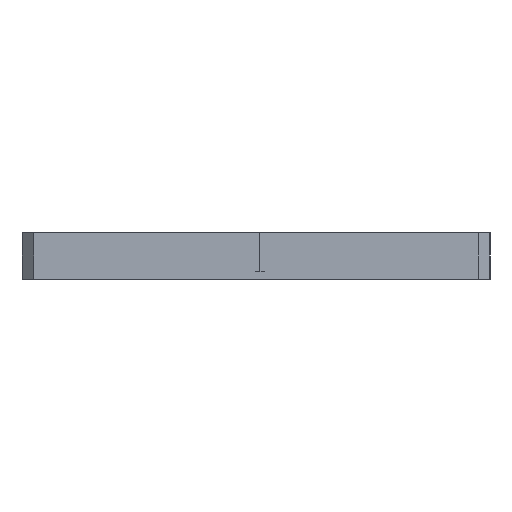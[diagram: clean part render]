
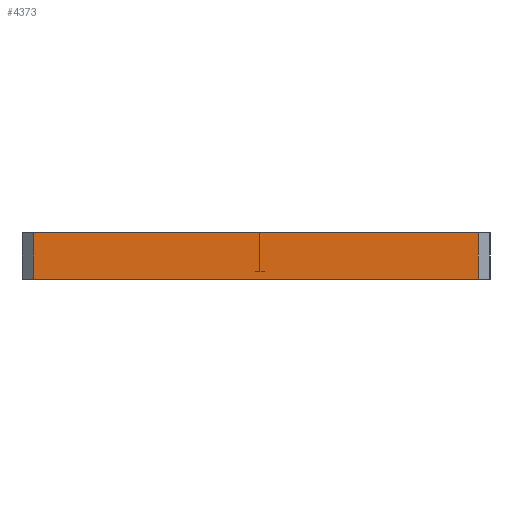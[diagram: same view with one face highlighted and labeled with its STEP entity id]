
A CAD part, left-side view. The second image highlights one B-rep face of the part: STEP entity #4373.
In plain terms, the highlighted planar face has unit normal (-1, 0, 0).
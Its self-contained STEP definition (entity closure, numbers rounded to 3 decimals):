
#127 = DIRECTION ( 'NONE',  ( 0., 0., 1. ) ) ;
#212 = CARTESIAN_POINT ( 'NONE',  ( -27.5, 120., -12. ) ) ;
#232 = VERTEX_POINT ( 'NONE', #5789 ) ;
#552 = VERTEX_POINT ( 'NONE', #2545 ) ;
#873 = PLANE ( 'NONE',  #4072 ) ;
#1357 = EDGE_CURVE ( 'NONE', #232, #1634, #7024, .T. ) ;
#1596 = FACE_OUTER_BOUND ( 'NONE', #5115, .T. ) ;
#1634 = VERTEX_POINT ( 'NONE', #7172 ) ;
#2105 = EDGE_CURVE ( 'NONE', #552, #7068, #2221, .T. ) ;
#2221 = LINE ( 'NONE', #212, #5718 ) ;
#2247 = VECTOR ( 'NONE', #3371, 1000. ) ;
#2269 = DIRECTION ( 'NONE',  ( 0., 1., 0. ) ) ;
#2545 = CARTESIAN_POINT ( 'NONE',  ( -27.5, 117., -12. ) ) ;
#2812 = LINE ( 'NONE', #4208, #2247 ) ;
#2855 = DIRECTION ( 'NONE',  ( 0., -1., 0. ) ) ;
#2921 = CARTESIAN_POINT ( 'NONE',  ( -27.5, 120., -12. ) ) ;
#2993 = ORIENTED_EDGE ( 'NONE', *, *, #6254, .F. ) ;
#3186 = ORIENTED_EDGE ( 'NONE', *, *, #1357, .F. ) ;
#3371 = DIRECTION ( 'NONE',  ( 0., 0., -1. ) ) ;
#3522 = LINE ( 'NONE', #6261, #6934 ) ;
#4072 = AXIS2_PLACEMENT_3D ( 'NONE', #2921, #8410, #2269 ) ;
#4208 = CARTESIAN_POINT ( 'NONE',  ( -27.5, 3., -12. ) ) ;
#4245 = CARTESIAN_POINT ( 'NONE',  ( -27.5, 120., 0. ) ) ;
#4373 = ADVANCED_FACE ( 'NONE', ( #1596 ), #873, .F. ) ;
#4809 = CARTESIAN_POINT ( 'NONE',  ( -27.5, 3., -12. ) ) ;
#5086 = EDGE_CURVE ( 'NONE', #552, #232, #3522, .T. ) ;
#5115 = EDGE_LOOP ( 'NONE', ( #3186, #8537, #6777, #2993 ) ) ;
#5718 = VECTOR ( 'NONE', #8414, 1000. ) ;
#5789 = CARTESIAN_POINT ( 'NONE',  ( -27.5, 117., 0. ) ) ;
#6254 = EDGE_CURVE ( 'NONE', #1634, #7068, #2812, .T. ) ;
#6261 = CARTESIAN_POINT ( 'NONE',  ( -27.5, 117., -12. ) ) ;
#6777 = ORIENTED_EDGE ( 'NONE', *, *, #2105, .T. ) ;
#6934 = VECTOR ( 'NONE', #127, 1000. ) ;
#7024 = LINE ( 'NONE', #4245, #7572 ) ;
#7068 = VERTEX_POINT ( 'NONE', #4809 ) ;
#7172 = CARTESIAN_POINT ( 'NONE',  ( -27.5, 3., 0. ) ) ;
#7572 = VECTOR ( 'NONE', #2855, 1000. ) ;
#8410 = DIRECTION ( 'NONE',  ( 1., 0., 0. ) ) ;
#8414 = DIRECTION ( 'NONE',  ( 0., -1., 0. ) ) ;
#8537 = ORIENTED_EDGE ( 'NONE', *, *, #5086, .F. ) ;
